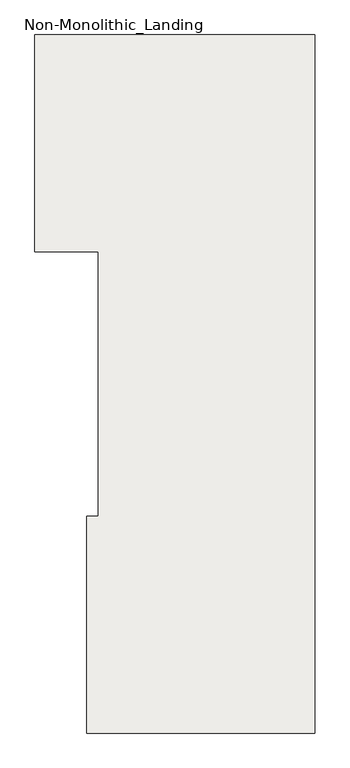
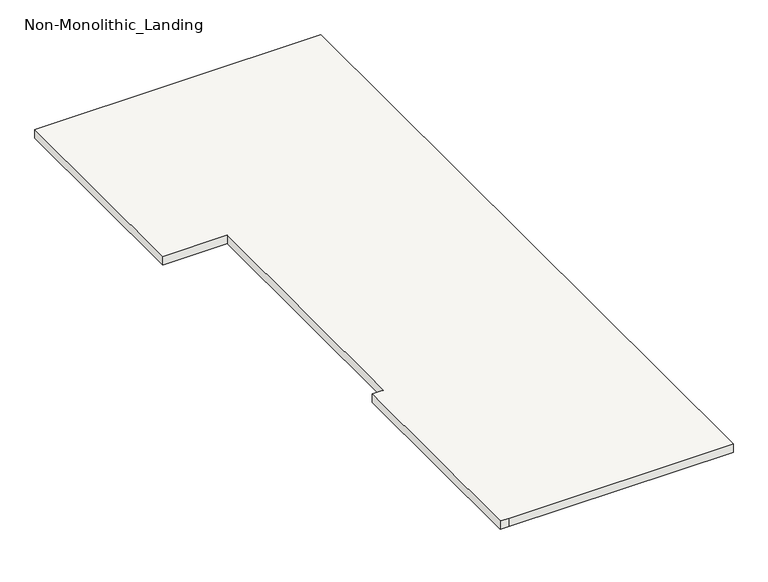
"""IFC4 building model written with IfcOpenShell, lengths in millimetres: slab geometry, Non-Monolithic_Landing."""

from ifc_helpers import new_model, si_unit, frame, origin, place, context, project, spatial, polyline, outline, extrude, source, transform, mapped, element, save


def non_monolithic_landing_bf5c9b89(model_context):
    return source(origin(), model_context, "Body", "SweptSolid", [
        extrude(outline(polyline([(38085.7942367, 1.8025492), (39376.9511446, 1.8025492), (39376.9511446, -3220.0053409), (38365.7942367, -3220.0053409), (38325.7942367, -3220.0053409), (38325.7942367, -2220.0053409), (38365.7942367, -2220.0053409), (38376.9511446, -2220.0053409), (38376.9511446, -998.1974508), (38085.7942367, -998.1974508), (38085.7942367, 1.8025492)])), frame((0.0, 0.0, 12674.2857143), z_axis=(0.0, 0.0, 1.0), x_axis=(1.0, 0.0, 0.0)), (0.0, 0.0, 1.0), 40.0),
    ])


if __name__ == "__main__":
    model = new_model("IFC4")
    model_context = context("Model", 3, world=origin())
    ifc_project = project(units=[si_unit("LENGTHUNIT", "METRE", prefix="MILLI")], contexts=[model_context])
    site = spatial("IfcSite", under=ifc_project)
    building = spatial("IfcBuilding", under=site)
    placement = place(None, origin())
    non_monolithic_landing_shape = non_monolithic_landing_bf5c9b89(model_context)
    element("IfcSlab", 1, ObjectType="Non-Monolithic_Landing", at=placement, inside=building, context=model_context, shape_type="MappedRepresentation", body=[
        mapped(non_monolithic_landing_shape, transform((0.0, 0.0, 0.0), x_axis=(1.0, 0.0, 0.0), y_axis=(0.0, 1.0, 0.0), z_axis=(0.0, 0.0, 1.0))),
    ])
    save(model, "model.ifc")
